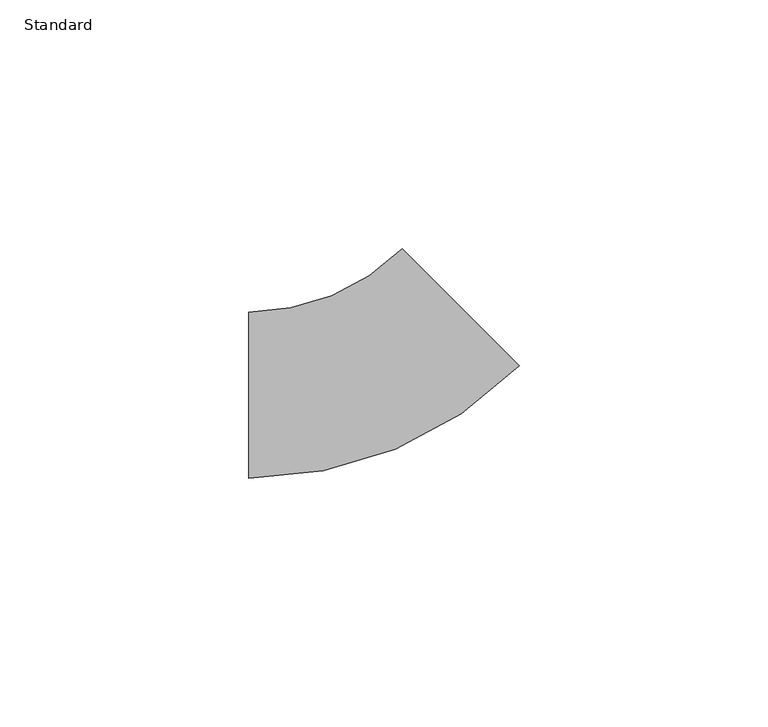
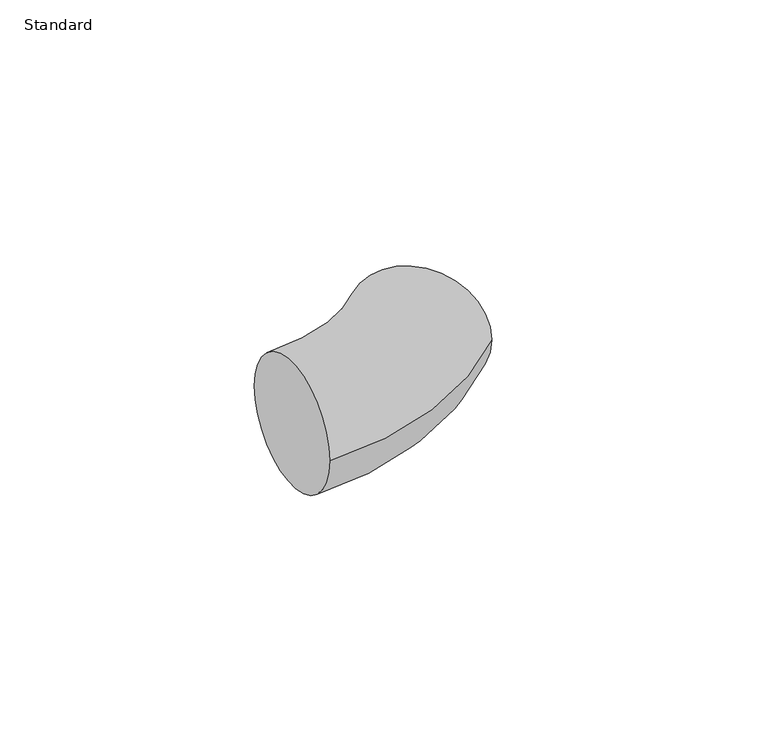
"""IFC4 building model written with IfcOpenShell, lengths in millimetres: pipe fitting geometry, Coude - Générique1 : Standard."""

from ifc_helpers import new_model, si_unit, point, frame, origin, place, context, project, spatial, circle_curve, ellipse_curve, trimmed, source, transform, mapped, element, save
from ifc_brep_helpers import plane_surface, revolved_surface, advanced_brep


def standard_343ea2e7(model_context):
    return source(origin(), model_context, "Body", "AdvancedBrep", [
        advanced_brep(
        [(-25.0, -16.7, 0.0), (-25.0, 16.7, 0.0), (29.4863528, 5.8689863, 0.0), (5.8689863, 29.4863528, 0.0)],
        [
            (0, 1, circle_curve(frame((-25.0, 0.0, 0.0), z_axis=(-1.0, 0.0, 0.0), x_axis=(0.0, 1.0, 0.0)), 16.7)),
            (1, 0, circle_curve(frame((-25.0, 0.0, 0.0), z_axis=(-1.0, 0.0, 0.0), x_axis=(0.0, 1.0, 0.0)), 16.7)),
            (2, 3, circle_curve(frame((17.6776695, 17.6776695, 0.0), z_axis=(0.7071067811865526, 0.7071067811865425, 0.0), x_axis=(-0.7071067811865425, 0.7071067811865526, 0.0)), 16.7)),
            (3, 2, circle_curve(frame((17.6776695, 17.6776695, 0.0), z_axis=(0.7071067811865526, 0.7071067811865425, 0.0), x_axis=(-0.7071067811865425, 0.7071067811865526, 0.0)), 16.7)),
            (3, 1, circle_curve(frame((-25.0, 60.3553391, 0.0), z_axis=(0.0, 0.0, -1.0), x_axis=(0.0, -1.0, 0.0)), 43.6553391)),
            (0, 2, circle_curve(frame((-25.0, 60.3553391, 0.0), z_axis=(0.0, 0.0, 1.0), x_axis=(0.0, -1.0, 0.0)), 77.0553391)),
        ],
        [
            plane_surface(frame((-25.0, 0.0, 0.0), z_axis=(-1.0, 0.0, 0.0), x_axis=(0.0, 0.0, 1.0))),
            plane_surface(frame((17.6776695, 17.6776695, 0.0), z_axis=(0.7071067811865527, 0.7071067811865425, 0.0), x_axis=(0.0, 0.0, 1.0))),
            revolved_surface(trimmed(ellipse_curve(frame((-25.0, 0.0, 0.0), z_axis=(-1.0, 0.0, 0.0), x_axis=(0.0, 1.0, 0.0)), 16.7, 16.7), [point((-25.0, -16.7, 0.0))], [point((-25.0, 16.7, 0.0))], True, "CARTESIAN"), (-25.0, 60.3553391, 0.0), (0.0, 0.0, 1.0)),
            revolved_surface(trimmed(ellipse_curve(frame((-25.0, 0.0, 0.0), z_axis=(-1.0, 0.0, 0.0), x_axis=(0.0, 1.0, 0.0)), 16.7, 16.7), [point((-25.0, 16.7, 0.0))], [point((-25.0, -16.7, 0.0))], True, "CARTESIAN"), (-25.0, 60.3553391, 0.0), (0.0, 0.0, 1.0)),
        ],
        [
            (0, [[1, 2]]),
            (1, [[3, 4]]),
            (2, [[5, -1, 6, -4]]),
            (3, [[-6, -2, -5, -3]]),
        ],
    ),
    ])


if __name__ == "__main__":
    model = new_model("IFC4")
    model_context = context("Model", 3, world=origin())
    ifc_project = project(units=[si_unit("LENGTHUNIT", "METRE", prefix="MILLI")], contexts=[model_context])
    site = spatial("IfcSite", under=ifc_project)
    building = spatial("IfcBuilding", under=site)
    placement = place(None, origin())
    standard_shape = standard_343ea2e7(model_context)
    element("IfcPipeFitting", 1, ObjectType="Coude - Générique1 : Standard", at=placement, inside=building, context=model_context, shape_type="MappedRepresentation", body=[
        mapped(standard_shape, transform((0.0, 0.0, 0.0), x_axis=(1.0, 0.0, 0.0), y_axis=(0.0, 1.0, 0.0), z_axis=(0.0, 0.0, 1.0))),
    ])
    save(model, "model.ifc")
